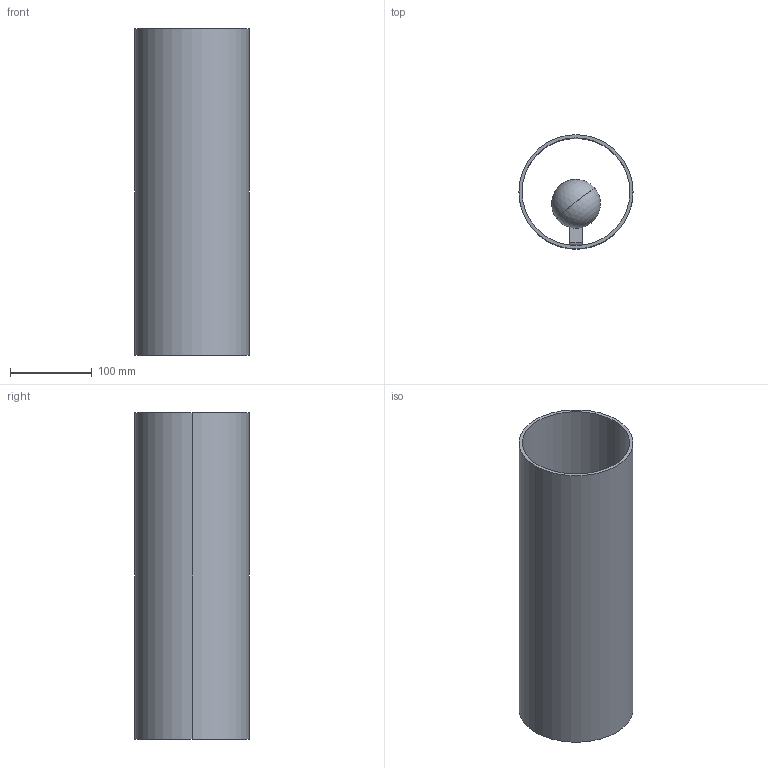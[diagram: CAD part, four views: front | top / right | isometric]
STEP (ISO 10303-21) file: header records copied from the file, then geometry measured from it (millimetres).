
FILE_DESCRIPTION (( 'STEP AP203' ), '1' );
FILE_NAME ('LIO LT 40 -.STEP', '2021-03-22T08:28:02', ( '' ), ( '' ), 'SwSTEP 2.0', 'SolidWorks 2020', '' );
FILE_SCHEMA (( 'CONFIG_CONTROL_DESIGN' ));
Length unit declared in the file: millimetre
Products named in the file (9): PASSACAVO 5901-0; CMSTALTLIOGR; PTL E27 A SCATTO CAMICIA; PTL E27 A SCATTO; M10x1_PreviewCfg; PTL E27 A SCATTO BASE; VETRO 40; Bulbo x render 1; LIO  LT  40    -
Assembly tree (8 placements, depth 3):
  LIO  LT  40    -
    VETRO 40
    PTL E27 A SCATTO
      PTL E27 A SCATTO BASE
      PTL E27 A SCATTO CAMICIA
      M10x1_PreviewCfg
      PASSACAVO 5901-0
    Bulbo x render 1
    CMSTALTLIOGR
Bounding box: 140 x 140 x 400 mm (x, y, z)
Volume: 720713.3 mm3; surface area: 390343.5 mm2
Topology: 7 solids, 7 shells, 149 faces, 366 edges, 230 vertices
Faces by surface type: plane 57, cylinder 52, cone 22, torus 14, sphere 4
Entity records: 5460 total; most frequent: CARTESIAN_POINT 937, DIRECTION 809, ORIENTED_EDGE 712, EDGE_CURVE 356, AXIS2_PLACEMENT_3D 328, VERTEX_POINT 224, EDGE_LOOP 170, CIRCLE 167
